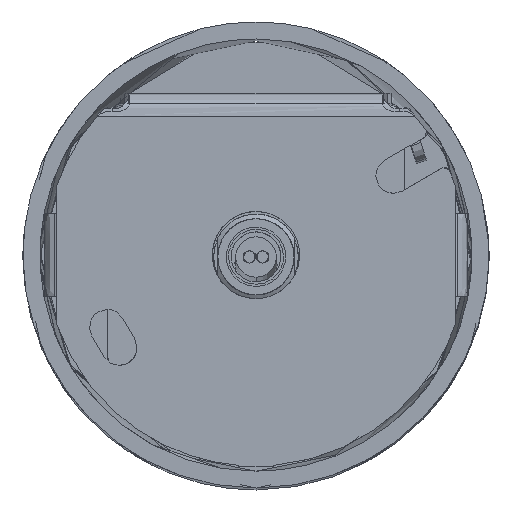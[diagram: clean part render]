
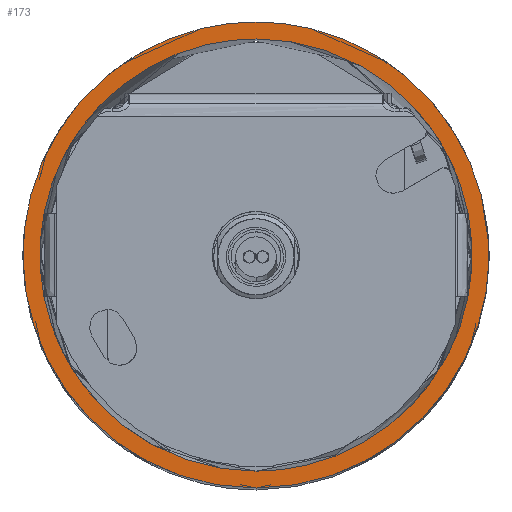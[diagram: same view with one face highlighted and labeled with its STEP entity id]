
A CAD part, top view. The second image highlights one B-rep face of the part: STEP entity #173.
In plain terms, the highlighted planar face has unit normal (0, 0, 1) as drawn and (0, 1, 0) by its records, which use the part's own axes.
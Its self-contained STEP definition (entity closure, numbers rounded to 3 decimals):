
#121=FACE_BOUND('',#1126,.T.);
#173=ADVANCED_FACE('',(#648,#121),#7282,.T.);
#648=FACE_OUTER_BOUND('',#1125,.T.);
#1125=EDGE_LOOP('',(#1664,#1665));
#1126=EDGE_LOOP('',(#1666,#1667));
#1664=ORIENTED_EDGE('',*,*,#4094,.T.);
#1665=ORIENTED_EDGE('',*,*,#4090,.F.);
#1666=ORIENTED_EDGE('',*,*,#4098,.T.);
#1667=ORIENTED_EDGE('',*,*,#4084,.T.);
#4084=EDGE_CURVE('',#6520,#6521,#5295,.T.);
#4090=EDGE_CURVE('',#6524,#6525,#5297,.T.);
#4094=EDGE_CURVE('',#6524,#6525,#5299,.T.);
#4098=EDGE_CURVE('',#6521,#6520,#5301,.T.);
#5295=(
BOUNDED_CURVE()
B_SPLINE_CURVE(2,(#8552,#8553,#8554,#8555,#8556),.UNSPECIFIED.,.F.,.F.)
B_SPLINE_CURVE_WITH_KNOTS((3,2,3),(-80.111,-40.055,
0.),.UNSPECIFIED.)
CURVE()
GEOMETRIC_REPRESENTATION_ITEM()
RATIONAL_B_SPLINE_CURVE((1.,0.707,1.,0.707,1.))
REPRESENTATION_ITEM('')
);
#5297=(
BOUNDED_CURVE()
B_SPLINE_CURVE(2,(#8620,#8621,#8622,#8623,#8624),.UNSPECIFIED.,.F.,.F.)
B_SPLINE_CURVE_WITH_KNOTS((3,2,3),(0.,43.197,86.394),
 .UNSPECIFIED.)
CURVE()
GEOMETRIC_REPRESENTATION_ITEM()
RATIONAL_B_SPLINE_CURVE((1.,0.707,1.,0.707,1.))
REPRESENTATION_ITEM('')
);
#5299=(
BOUNDED_CURVE()
B_SPLINE_CURVE(2,(#8634,#8635,#8636,#8637,#8638),.UNSPECIFIED.,.F.,.F.)
B_SPLINE_CURVE_WITH_KNOTS((3,2,3),(-86.394,-43.197,
0.),.UNSPECIFIED.)
CURVE()
GEOMETRIC_REPRESENTATION_ITEM()
RATIONAL_B_SPLINE_CURVE((1.,0.707,1.,0.707,1.))
REPRESENTATION_ITEM('')
);
#5301=(
BOUNDED_CURVE()
B_SPLINE_CURVE(2,(#8698,#8699,#8700,#8701,#8702),.UNSPECIFIED.,.F.,.F.)
B_SPLINE_CURVE_WITH_KNOTS((3,2,3),(-80.111,-40.055,
0.),.UNSPECIFIED.)
CURVE()
GEOMETRIC_REPRESENTATION_ITEM()
RATIONAL_B_SPLINE_CURVE((1.,0.707,1.,0.707,1.))
REPRESENTATION_ITEM('')
);
#6520=VERTEX_POINT('',#8482);
#6521=VERTEX_POINT('',#8483);
#6524=VERTEX_POINT('',#8486);
#6525=VERTEX_POINT('',#8487);
#7282=PLANE('',#7960);
#7960=AXIS2_PLACEMENT_3D('',#8400,#8131,$);
#8131=DIRECTION('',(0.,1.,0.));
#8400=CARTESIAN_POINT('',(-33.,65.,-33.));
#8482=CARTESIAN_POINT('',(0.,65.,25.5));
#8483=CARTESIAN_POINT('',(0.,65.,-25.5));
#8486=CARTESIAN_POINT('',(0.,65.,-27.5));
#8487=CARTESIAN_POINT('',(0.,65.,27.5));
#8552=CARTESIAN_POINT('',(0.,65.,25.5));
#8553=CARTESIAN_POINT('',(-25.5,65.,25.5));
#8554=CARTESIAN_POINT('',(-25.5,65.,0.));
#8555=CARTESIAN_POINT('',(-25.5,65.,-25.5));
#8556=CARTESIAN_POINT('',(0.,65.,-25.5));
#8620=CARTESIAN_POINT('',(0.,65.,-27.5));
#8621=CARTESIAN_POINT('',(27.5,65.,-27.5));
#8622=CARTESIAN_POINT('',(27.5,65.,0.));
#8623=CARTESIAN_POINT('',(27.5,65.,27.5));
#8624=CARTESIAN_POINT('',(0.,65.,27.5));
#8634=CARTESIAN_POINT('',(0.,65.,-27.5));
#8635=CARTESIAN_POINT('',(-27.5,65.,-27.5));
#8636=CARTESIAN_POINT('',(-27.5,65.,0.));
#8637=CARTESIAN_POINT('',(-27.5,65.,27.5));
#8638=CARTESIAN_POINT('',(0.,65.,27.5));
#8698=CARTESIAN_POINT('',(0.,65.,-25.5));
#8699=CARTESIAN_POINT('',(25.5,65.,-25.5));
#8700=CARTESIAN_POINT('',(25.5,65.,0.));
#8701=CARTESIAN_POINT('',(25.5,65.,25.5));
#8702=CARTESIAN_POINT('',(0.,65.,25.5));
